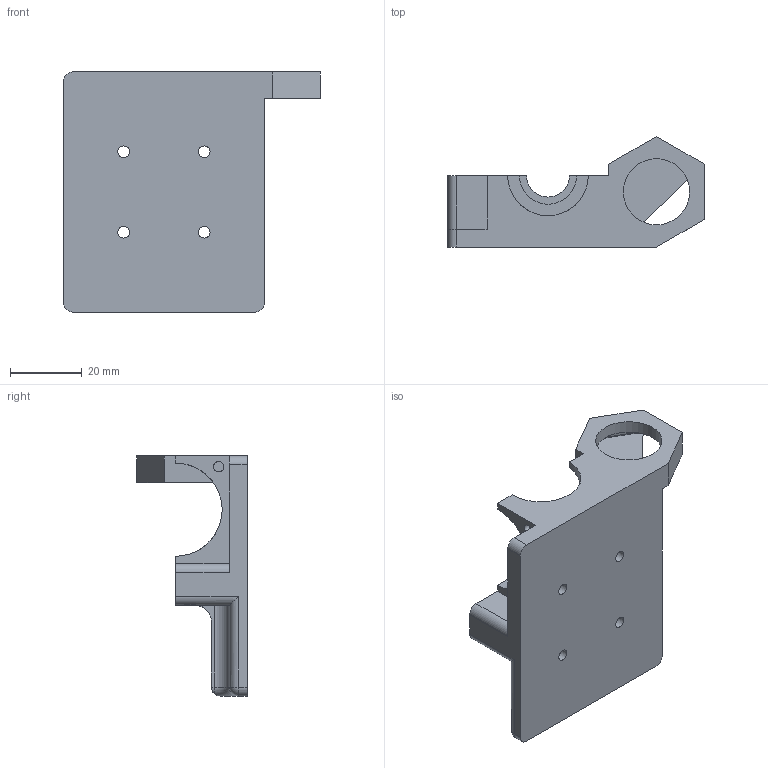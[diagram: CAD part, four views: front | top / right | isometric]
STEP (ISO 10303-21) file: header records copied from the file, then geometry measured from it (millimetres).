
FILE_DESCRIPTION(/* description */ (''),/* implementation_level */ '2;1');
FILE_NAME(/* name */ 'C:/Users/jack-_000/Documents/3dPrinter/Models/Venture Aeon/Bowden X Carriage/Main 18mm.step',/* time_stamp */ '2017-03-18T19:32:52+00:00',/* author */ (''),/* organization */ (''),/* preprocessor_version */ 'ST-DEVELOPER v16.5',/* originating_system */ 'Autodesk Translation Framework v5.2.0.2920',/* authorisation */ '');
FILE_SCHEMA (('AUTOMOTIVE_DESIGN { 1 0 10303 214 3 1 1 }'));
Length unit declared in the file: millimetre
Products named in the file (1): X carriage mount 18mm sensor v5
Bounding box: 71.64 x 30.85 x 67 mm (x, y, z)
Volume: 35466 mm3; surface area: 13524.3 mm2
Topology: 1 solids, 1 shells, 102 faces, 268 edges, 173 vertices
Faces by surface type: plane 58, cylinder 36, bspline 3, torus 3, sphere 2
Full cylindrical faces by diameter (mm): 2.9 x1, 3.2 x8, 6 x4, 18.5 x1
Entity records: 3429 total; most frequent: CARTESIAN_POINT 897, DIRECTION 518, ORIENTED_EDGE 500, EDGE_CURVE 250, AXIS2_PLACEMENT_3D 180, VERTEX_POINT 169, LINE 158, VECTOR 158
